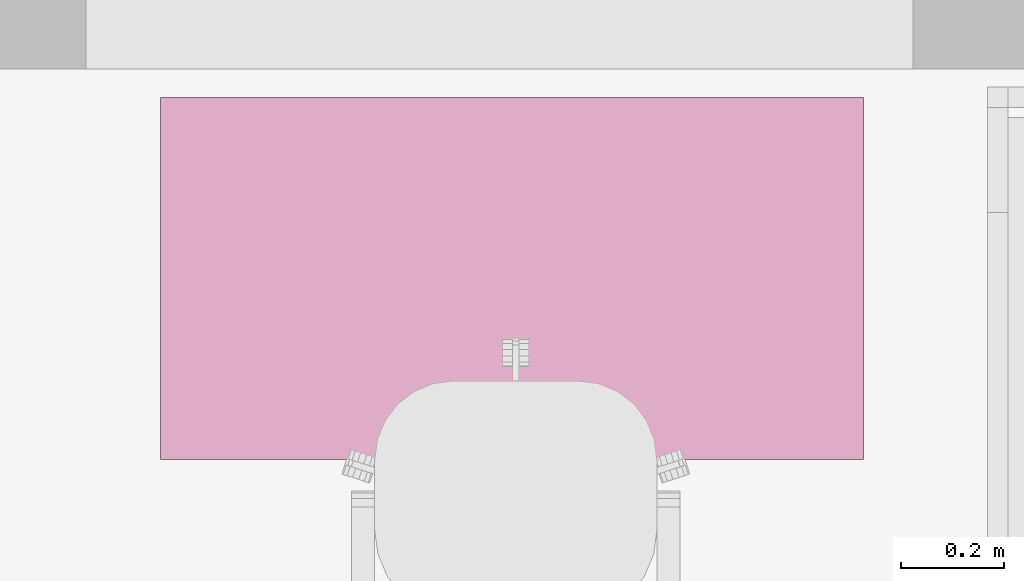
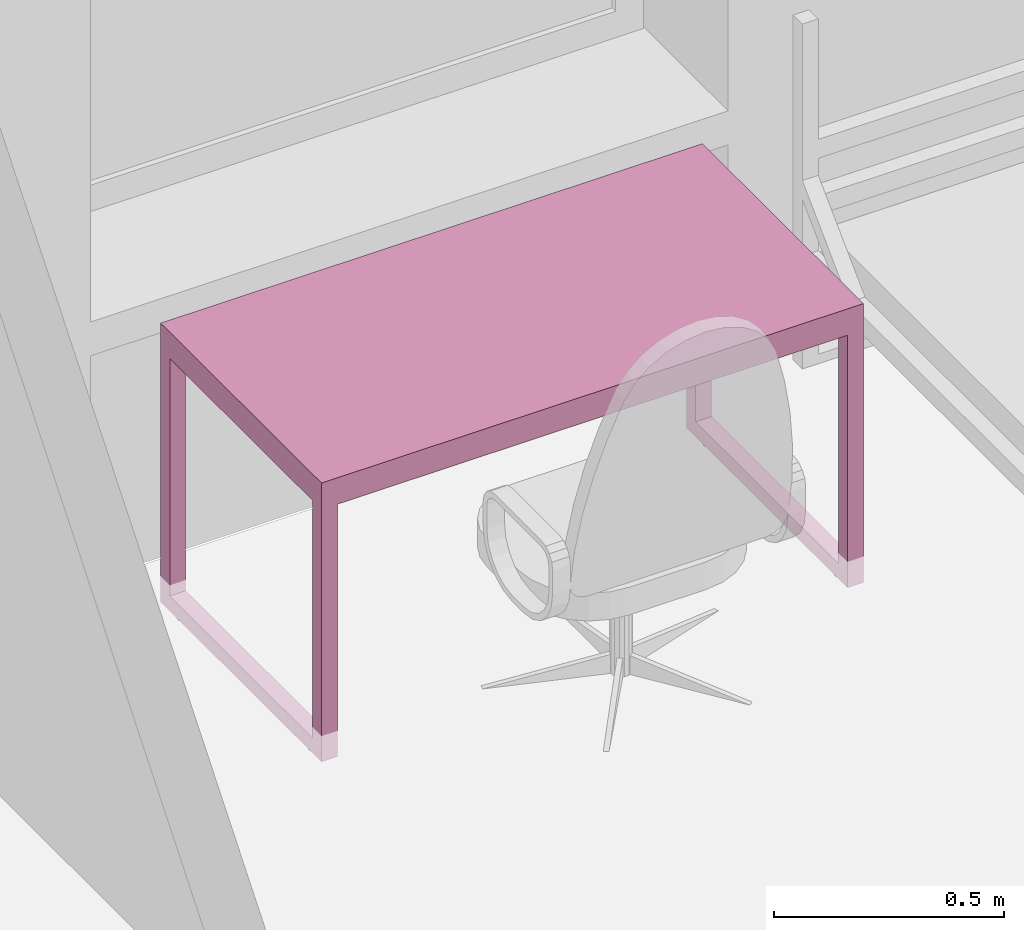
# One storey, part 32 of 46: 1 furnishing.
"""IFC2X3 building model written with IfcOpenShell, lengths in millimetres."""

import ifcopenshell
import ifcopenshell.guid

model = None  # the IFC model being written
_history = None  # IfcOwnerHistory: only IFC2X3 demands one
_inside = {}  # id of a spatial element -> (the spatial element, [elements in it])
_under = {}  # id of a project, library or spatial element -> (it, [spatial elements below it])
_declared = {}  # id of a project -> (the project, [libraries it declares])
_typed = {}  # id of a type object -> (the type object, [elements of that type])
_made_of = {}  # id of a material, layer set ... -> (it, [elements and type objects made of it])


def new_model(schema):
    """Start an empty IFC model of exactly this schema.

    Asked for "IFC4X3", IfcOpenShell would pick the latest addendum, in which some entities
    have other attributes; the version numbers below select the first issue.
    IFC2X3 requires an IfcOwnerHistory on every rooted entity: one is made here for all.
    """
    global model, _history
    if schema == "IFC4X3":
        model = ifcopenshell.file(schema_version=(4, 3, 0, 0))
    else:
        model = ifcopenshell.file(schema=schema)
    _inside.clear()
    _under.clear()
    _declared.clear()
    _typed.clear()
    _made_of.clear()
    _history = None
    if model.schema == "IFC2X3":
        org = make("IfcOrganization", Name="unknown")
        user = make(
            "IfcPersonAndOrganization",
            ThePerson=make("IfcPerson", FamilyName="unknown"),
            TheOrganization=org,
        )
        app = make(
            "IfcApplication",
            ApplicationDeveloper=org,
            Version="unknown",
            ApplicationFullName="unknown",
            ApplicationIdentifier="unknown",
        )
        _history = make(
            "IfcOwnerHistory",
            OwningUser=user,
            OwningApplication=app,
            ChangeAction="ADDED",
            CreationDate=0,
        )
    return model


def make(cls, **values):
    """One entity of the class cls with the attributes given. An attribute that is None is left unset."""
    return model.create_entity(
        cls, **{name: value for name, value in values.items() if value is not None}
    )


def entity(cls, *values):
    """Any entity or typed value of the class cls, its attributes in the order of the schema. None: left unset."""
    e = model.create_entity(cls)
    for i, value in enumerate(values):
        if value is not None:
            e[i] = value
    return e


def rooted(cls, **values):
    """An entity with a GlobalId (a new one), such as an element, a storey or a relation."""
    return make(cls, GlobalId=ifcopenshell.guid.new(), OwnerHistory=_history, **values)


def si_unit(unit_type, name, prefix=None):
    """IfcSIUnit, for example si_unit("LENGTHUNIT", "METRE", prefix="MILLI")."""
    return make("IfcSIUnit", UnitType=unit_type, Prefix=prefix, Name=name)


def converted_unit(unit_type, name, factor, base, dimensions=None, offset=None):
    """IfcConversionBasedUnit, such as the inch: factor (a typed value) times the base unit."""
    return make(
        "IfcConversionBasedUnit"
        if offset is None
        else "IfcConversionBasedUnitWithOffset",
        ConversionOffset=offset,
        Dimensions=None
        if dimensions is None
        else entity("IfcDimensionalExponents", *dimensions),
        UnitType=unit_type,
        Name=name,
        ConversionFactor=make(
            "IfcMeasureWithUnit", ValueComponent=factor, UnitComponent=base
        ),
    )


def derived_unit(unit_type, elements):
    """IfcDerivedUnit: a product of units, each with its exponent."""
    return make(
        "IfcDerivedUnit",
        Elements=[
            make("IfcDerivedUnitElement", Unit=unit, Exponent=power)
            for unit, power in elements
        ],
        UnitType=unit_type,
    )


def assignment(units):
    """IfcUnitAssignment: the units of a project."""
    return None if units is None else make("IfcUnitAssignment", Units=units)


def point(xyz):
    """IfcCartesianPoint."""
    return None if xyz is None else make("IfcCartesianPoint", Coordinates=xyz)


def direction(xyz):
    """IfcDirection."""
    return None if xyz is None else make("IfcDirection", DirectionRatios=xyz)


def frame(location, z_axis=None, x_axis=None):
    """IfcAxis2Placement3D, a coordinate frame: its origin and axes. An axis left out is left unset."""
    return make(
        "IfcAxis2Placement3D",
        Location=point(location),
        Axis=direction(z_axis),
        RefDirection=direction(x_axis),
    )


def origin():
    """The frame at (0, 0, 0) with its axes left unset."""
    return frame((0.0, 0.0, 0.0))


def place(relative_to, where):
    """IfcLocalPlacement: puts the frame where relative to a parent placement (None: the world)."""
    return make(
        "IfcLocalPlacement", PlacementRelTo=relative_to, RelativePlacement=where
    )


def context(
    kind, dimensions, precision=None, world=None, true_north=None, identifier=None
):
    """IfcGeometricRepresentationContext, for example the 3D "Model" context."""
    return make(
        "IfcGeometricRepresentationContext",
        ContextIdentifier=identifier,
        ContextType=kind,
        CoordinateSpaceDimension=dimensions,
        Precision=precision,
        WorldCoordinateSystem=world,
        TrueNorth=true_north,
    )


def subcontext(parent, identifier, kind, view, scale=None):
    """IfcGeometricRepresentationSubContext, for example "Body" below "Model"."""
    return make(
        "IfcGeometricRepresentationSubContext",
        ContextIdentifier=identifier,
        ContextType=kind,
        ParentContext=parent,
        TargetScale=scale,
        TargetView=view,
    )


def project(units=None, contexts=None):
    """IfcProject with its units and contexts."""
    return rooted(
        "IfcProject",
        Name="project",
        RepresentationContexts=contexts,
        UnitsInContext=assignment(units),
    )


def spatial(cls, under=None, at=None, **own):
    """A site, building, storey or space (cls), placed at a placement, below another one or the project."""
    s = rooted(cls, ObjectPlacement=at, **own)
    if under is not None:
        _under.setdefault(under.id(), (under, []))[1].append(s)
    return s


def faces_of(points, faces, orient=None, outer=None):
    """IfcFace entities. A face is a list of loops; a loop is a list of indices into points, from 0.

    orient and outer hold one flag for each loop. By default every Orientation is true, the
    first loop of a face is its IfcFaceOuterBound and the others are IfcFaceBound.
    """
    made = []
    for i, loops in enumerate(faces):
        bounds = []
        for j, loop in enumerate(loops):
            is_outer = j == 0 if outer is None else outer[i][j]
            bounds.append(
                make(
                    "IfcFaceOuterBound" if is_outer else "IfcFaceBound",
                    Bound=make("IfcPolyLoop", Polygon=[points[k] for k in loop]),
                    Orientation=True if orient is None else orient[i][j],
                )
            )
        made.append(make("IfcFace", Bounds=bounds))
    return made


def faceted_brep(points, faces, orient=None, outer=None, voids=None):
    """IfcFacetedBrep: a solid bounded by flat faces; with voids (closed shells), ...WithVoids."""
    shared = [point(p) for p in points]
    hull = make("IfcClosedShell", CfsFaces=faces_of(shared, faces, orient, outer))
    if voids is None:
        return make("IfcFacetedBrep", Outer=hull)
    return make(
        "IfcFacetedBrepWithVoids",
        Outer=hull,
        Voids=[
            make(cls, CfsFaces=faces_of(shared, fs, o, b)) for cls, fs, o, b in voids
        ],
    )


def shape(context_of_items, identifier, shape_type, items):
    """IfcShapeRepresentation: the items that make up one representation, for example the "Body"."""
    return make(
        "IfcShapeRepresentation",
        ContextOfItems=context_of_items,
        RepresentationIdentifier=identifier,
        RepresentationType=shape_type,
        Items=items,
    )


def source(mapping_origin, context_of_items, identifier, shape_type, items):
    """IfcRepresentationMap: a shape defined once, which mapped items show again and again."""
    return make(
        "IfcRepresentationMap",
        MappingOrigin=mapping_origin,
        MappedRepresentation=shape(context_of_items, identifier, shape_type, items),
    )


def transform(
    local_origin,
    x_axis=None,
    y_axis=None,
    z_axis=None,
    scale=None,
    scale2=None,
    scale3=None,
    uniform=True,
):
    """IfcCartesianTransformationOperator3D, or its non-uniform kind. x_axis, y_axis, z_axis: its Axis1, 2, 3."""
    if uniform:
        return make(
            "IfcCartesianTransformationOperator3D",
            Axis1=direction(x_axis),
            Axis2=direction(y_axis),
            LocalOrigin=point(local_origin),
            Scale=scale,
            Axis3=direction(z_axis),
        )
    return make(
        "IfcCartesianTransformationOperator3DnonUniform",
        Axis1=direction(x_axis),
        Axis2=direction(y_axis),
        LocalOrigin=point(local_origin),
        Scale=scale,
        Axis3=direction(z_axis),
        Scale2=scale2,
        Scale3=scale3,
    )


def mapped(mapping_source, mapping_target):
    """IfcMappedItem: shows the shape of a source again, moved by a transform."""
    return make(
        "IfcMappedItem", MappingSource=mapping_source, MappingTarget=mapping_target
    )


def material(Name=None, Category=None):
    """IfcMaterial."""
    return make("IfcMaterial", Name=Name, Category=Category)


def material_list(materials):
    """IfcMaterialList."""
    return make("IfcMaterialList", Materials=materials)


def made_of(thing, what):
    """Note that an element or type object is made of a material, layer set ...; save() writes the relation."""
    if what is not None:
        _made_of.setdefault(what.id(), (what, []))[1].append(thing)
    return thing


def type_object(cls, material=None, **own):
    """A type object (cls), such as IfcWallType, which elements share."""
    return made_of(rooted(cls, **own), material)


def type_shapes(of_type, sources):
    """Give a type object the sources (RepresentationMaps) that its elements show as mapped items."""
    of_type.RepresentationMaps = sources


def element(
    cls,
    number,
    at=None,
    inside=None,
    cuts=None,
    type_object=None,
    material=None,
    context=None,
    identifier="Body",
    shape_type=None,
    held_by="IfcProductDefinitionShape",
    body=None,
    shapes=None,
    **own,
):
    """One element of the class cls, such as IfcWall. Its Tag is "e" and its number.

    at: its placement. inside: the storey or other place that contains it. cuts: it is an
    opening in that element (IfcRelVoidsElement). A single representation is given by context,
    identifier, shape_type and body (its items); several are given by shapes. held_by: the class
    of the entity that holds the representations. save() writes the other relations.
    """
    e = rooted(cls, Tag="e%d" % number, ObjectPlacement=at, **own)
    if body is not None:
        shapes = [shape(context, identifier, shape_type, body)]
    if shapes is not None:
        e.Representation = make(held_by, Representations=shapes)
    if inside is not None:
        _inside.setdefault(inside.id(), (inside, []))[1].append(e)
    if cuts is not None:
        rooted(
            "IfcRelVoidsElement", RelatingBuildingElement=cuts, RelatedOpeningElement=e
        )
    if type_object is not None:
        _typed.setdefault(type_object.id(), (type_object, []))[1].append(e)
    return made_of(e, material)


def aggregate(whole, parts):
    """IfcRelAggregates: a whole, such as a stair, and the parts it consists of."""
    return rooted("IfcRelAggregates", RelatingObject=whole, RelatedObjects=parts)


def save(model, path):
    """Write the relations noted so far, then the file.

    IfcRelAggregates (storeys below a building ...), IfcRelContainedInSpatialStructure (elements
    in a storey), IfcRelDefinesByType, IfcRelAssociatesMaterial and IfcRelDeclares: one each for
    every whole, place, type object, material and project.
    """
    for whole, parts in _under.values():
        aggregate(whole, parts)
    for where, things in _inside.values():
        rooted(
            "IfcRelContainedInSpatialStructure",
            RelatedElements=things,
            RelatingStructure=where,
        )
    for kind, things in _typed.values():
        rooted("IfcRelDefinesByType", RelatedObjects=things, RelatingType=kind)
    for what, things in _made_of.values():
        rooted("IfcRelAssociatesMaterial", RelatedObjects=things, RelatingMaterial=what)
    for by, libraries in _declared.values():
        rooted("IfcRelDeclares", RelatingContext=by, RelatedDefinitions=libraries)
    model.write(path)


model = new_model("IFC2X3")

# Units and contexts
model_context = context("Model", 3, precision=0.01, world=origin(), true_north=direction((6.12303176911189e-17, 1.0)))
body_context = subcontext(model_context, "Body", "Model", "MODEL_VIEW")
ifc_project = project(units=[si_unit("LENGTHUNIT", "METRE", prefix="MILLI"), si_unit("AREAUNIT", "SQUARE_METRE"), si_unit("VOLUMEUNIT", "CUBIC_METRE"), converted_unit("PLANEANGLEUNIT", "DEGREE", entity("IfcRatioMeasure", 0.0174532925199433), si_unit("PLANEANGLEUNIT", "RADIAN"), dimensions=[0, 0, 0, 0, 0, 0, 0]), si_unit("MASSUNIT", "GRAM", prefix="KILO"), derived_unit("MASSDENSITYUNIT", [(si_unit("MASSUNIT", "GRAM", prefix="KILO"), 1), (si_unit("LENGTHUNIT", "METRE"), -3)]), si_unit("TIMEUNIT", "SECOND"), si_unit("FREQUENCYUNIT", "HERTZ"), si_unit("THERMODYNAMICTEMPERATUREUNIT", "DEGREE_CELSIUS"), derived_unit("THERMALTRANSMITTANCEUNIT", [(si_unit("MASSUNIT", "GRAM", prefix="KILO"), 1), (si_unit("THERMODYNAMICTEMPERATUREUNIT", "KELVIN"), -1), (si_unit("TIMEUNIT", "SECOND"), -3)]), derived_unit("VOLUMETRICFLOWRATEUNIT", [(si_unit("LENGTHUNIT", "METRE"), 3), (si_unit("TIMEUNIT", "SECOND"), -1)]), si_unit("ELECTRICCURRENTUNIT", "AMPERE"), si_unit("ELECTRICVOLTAGEUNIT", "VOLT"), si_unit("POWERUNIT", "WATT"), si_unit("FORCEUNIT", "NEWTON", prefix="KILO"), si_unit("ILLUMINANCEUNIT", "LUX"), si_unit("LUMINOUSFLUXUNIT", "LUMEN"), si_unit("LUMINOUSINTENSITYUNIT", "CANDELA"), derived_unit("USERDEFINED", [(si_unit("MASSUNIT", "GRAM", prefix="KILO"), -1), (si_unit("LENGTHUNIT", "METRE"), -2), (si_unit("TIMEUNIT", "SECOND"), 3), (si_unit("LUMINOUSFLUXUNIT", "LUMEN"), 1)]), derived_unit("LINEARVELOCITYUNIT", [(si_unit("LENGTHUNIT", "METRE"), 1), (si_unit("TIMEUNIT", "SECOND"), -1)]), si_unit("PRESSUREUNIT", "PASCAL"), derived_unit("USERDEFINED", [(si_unit("LENGTHUNIT", "METRE"), -2), (si_unit("MASSUNIT", "GRAM", prefix="KILO"), 1), (si_unit("TIMEUNIT", "SECOND"), -2)]), derived_unit("LINEARFORCEUNIT", [(si_unit("MASSUNIT", "GRAM", prefix="KILO"), 1), (si_unit("LENGTHUNIT", "METRE"), 1), (si_unit("TIMEUNIT", "SECOND"), -2), (si_unit("LENGTHUNIT", "METRE"), -1)]), derived_unit("PLANARFORCEUNIT", [(si_unit("MASSUNIT", "GRAM", prefix="KILO"), 1), (si_unit("LENGTHUNIT", "METRE"), 1), (si_unit("TIMEUNIT", "SECOND"), -2), (si_unit("LENGTHUNIT", "METRE"), -2)])], contexts=[model_context])

# Site, building, storey, space
site_placement = place(None, origin())
site = spatial("IfcSite", under=ifc_project, at=site_placement, Name="Default", CompositionType="ELEMENT")
building_placement = place(site_placement, origin())
building = spatial("IfcBuilding", under=site, at=building_placement, Name="SMA ARH", CompositionType="ELEMENT")
storey_placement = place(building_placement, origin())
storey = spatial("IfcBuildingStorey", under=building, at=storey_placement, Name="1 Korrus", CompositionType="ELEMENT", Elevation=0.0)
space_placement = place(storey_placement, origin())
space = spatial("IfcSpace", under=storey, at=space_placement, Name="1-20/2", CompositionType="ELEMENT", InteriorOrExteriorSpace="INTERNAL")

# Furnishing
ifc_material = material(Name="<Unnamed>")
ifc_material_list = material_list([ifc_material, ifc_material])
furniture_type = type_object("IfcFurnitureType", Name="kirjutuslaud 1360x700mm:kirjutuslaud 1360x700mm", material=ifc_material_list)
shared_shape = source(origin(), body_context, "Body", "Brep", [
    faceted_brep([(680.0, -350.0, 720.0), (680.0, 350.0, 720.0), (680.0, 350.0, 750.0), (680.0, -350.0, 750.0), (-680.0, -350.0, 720.0), (-680.0, -350.0, 750.0), (-680.0, 350.0, 750.0), (-680.0, 350.0, 720.0)], [[[0, 1, 2, 3]], [[4, 5, 6, 7]], [[1, 0, 4, 7]], [[2, 1, 7, 6]], [[3, 2, 6, 5]], [[0, 3, 5, 4]]]),
    faceted_brep([(-640.0, -310.0, 680.0), (-640.0, 310.0, 680.0), (-640.0, 310.0, 720.0), (-640.0, -310.0, 720.0), (-680.0, -350.0, 720.0), (-680.0, 350.0, 720.0), (-680.0, 350.0, 10.0), (-680.0, -350.0, 10.0), (-680.0, 310.0, 680.0), (-680.0, -310.0, 680.0), (-680.0, -310.0, 50.0), (-680.0, 310.0, 50.0), (-640.0, -350.0, 10.0), (-640.0, -350.0, 680.0), (640.0, -350.0, 680.0), (640.0, -350.0, 10.0), (680.0, -350.0, 10.0), (680.0, -350.0, 720.0), (-640.0, 350.0, 10.0), (680.0, 350.0, 720.0), (680.0, 350.0, 10.0), (640.0, 350.0, 10.0), (640.0, 350.0, 680.0), (-640.0, 350.0, 680.0), (640.0, 310.0, 720.0), (640.0, -310.0, 720.0), (-640.0, 310.0, 50.0), (-640.0, -310.0, 50.0), (640.0, -310.0, 680.0), (640.0, 310.0, 680.0), (680.0, 310.0, 680.0), (680.0, 310.0, 50.0), (680.0, -310.0, 50.0), (680.0, -310.0, 680.0), (640.0, -310.0, 50.0), (640.0, 310.0, 50.0)], [[[0, 1, 2, 3]], [[4, 5, 6, 7], [8, 9, 10, 11]], [[4, 7, 12, 13, 14, 15, 16, 17]], [[18, 12, 7, 6]], [[6, 5, 19, 20, 21, 22, 23, 18]], [[19, 5, 4, 17], [2, 24, 25, 3]], [[26, 1, 8, 11]], [[27, 26, 11, 10]], [[0, 27, 10, 9]], [[1, 0, 9, 8]], [[14, 13, 0, 28]], [[24, 2, 1, 29]], [[3, 25, 28, 0]], [[17, 16, 20, 19], [30, 31, 32, 33]], [[21, 15, 14, 28, 34, 35, 29, 22]], [[20, 16, 15, 21]], [[31, 30, 29, 35]], [[32, 31, 35, 34]], [[33, 32, 34, 28]], [[30, 33, 28, 29]], [[29, 28, 25, 24]], [[29, 1, 23, 22]], [[12, 18, 23, 1, 26, 27, 0, 13]]]),
    faceted_brep([(-663.729456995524, -270.466136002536, 0.0), (-659.847171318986, -269.955023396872, 0.0), (-655.964885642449, -270.466136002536, 0.0), (-652.347171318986, -271.964642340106, 0.0), (-649.240569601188, -274.348421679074, 0.0), (-646.85679026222, -277.455023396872, 0.0), (-645.35828392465, -281.072737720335, 0.0), (-644.847171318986, -284.955023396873, 0.0), (-645.35828392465, -288.83730907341, 0.0), (-646.85679026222, -292.455023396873, 0.0), (-649.240569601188, -295.561625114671, 0.0), (-652.347171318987, -297.945404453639, 0.0), (-655.964885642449, -299.443910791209, 0.0), (-659.847171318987, -299.955023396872, 0.0), (-663.729456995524, -299.443910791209, 0.0), (-667.347171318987, -297.945404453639, 0.0), (-670.453773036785, -295.561625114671, 0.0), (-672.837552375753, -292.455023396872, 0.0), (-674.336058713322, -288.83730907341, 0.0), (-674.847171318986, -284.955023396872, 0.0), (-674.336058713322, -281.072737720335, 0.0), (-672.837552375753, -277.455023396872, 0.0), (-670.453773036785, -274.348421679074, 0.0), (-667.347171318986, -271.964642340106, 0.0), (-655.964885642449, -299.443910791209, 10.0), (-652.347171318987, -297.945404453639, 10.0), (-649.240569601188, -295.561625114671, 10.0), (-646.85679026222, -292.455023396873, 10.0), (-645.35828392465, -288.83730907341, 10.0), (-644.847171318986, -284.955023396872, 10.0), (-645.35828392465, -281.072737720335, 10.0), (-646.85679026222, -277.455023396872, 10.0), (-649.240569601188, -274.348421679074, 10.0), (-652.347171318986, -271.964642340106, 10.0), (-655.964885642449, -270.466136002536, 10.0), (-659.847171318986, -269.955023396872, 10.0), (-663.729456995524, -270.466136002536, 10.0), (-667.347171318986, -271.964642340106, 10.0), (-670.453773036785, -274.348421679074, 10.0), (-672.837552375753, -277.455023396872, 10.0), (-674.336058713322, -281.072737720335, 10.0), (-674.847171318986, -284.955023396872, 10.0), (-674.336058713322, -288.83730907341, 10.0), (-672.837552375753, -292.455023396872, 10.0), (-670.453773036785, -295.561625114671, 10.0), (-667.347171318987, -297.945404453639, 10.0), (-663.729456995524, -299.443910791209, 10.0), (-659.847171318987, -299.955023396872, 10.0)], [[[0, 1, 2, 3, 4, 5, 6, 7, 8, 9, 10, 11, 12, 13, 14, 15, 16, 17, 18, 19, 20, 21, 22, 23]], [[24, 25, 26, 27, 28, 29, 30, 31, 32, 33, 34, 35, 36, 37, 38, 39, 40, 41, 42, 43, 44, 45, 46, 47]], [[18, 42, 41, 19]], [[17, 43, 42, 18]], [[45, 44, 16, 15]], [[17, 16, 44, 43]], [[46, 45, 15, 14]], [[47, 46, 14, 13]], [[12, 24, 47, 13]], [[11, 25, 24, 12]], [[27, 26, 10, 9]], [[11, 10, 26, 25]], [[28, 27, 9, 8]], [[29, 28, 8, 7]], [[6, 30, 29, 7]], [[5, 31, 30, 6]], [[33, 32, 4, 3]], [[5, 4, 32, 31]], [[34, 33, 3, 2]], [[35, 34, 2, 1]], [[0, 36, 35, 1]], [[23, 37, 36, 0]], [[39, 38, 22, 21]], [[23, 22, 38, 37]], [[40, 39, 21, 20]], [[41, 40, 20, 19]]]),
    faceted_brep([(-655.964885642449, 270.466136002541, 10.0), (-652.347171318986, 271.964642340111, 10.0), (-649.240569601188, 274.348421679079, 10.0), (-646.85679026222, 277.455023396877, 10.0), (-645.35828392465, 281.07273772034, 10.0), (-644.847171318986, 284.955023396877, 10.0), (-645.35828392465, 288.837309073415, 10.0), (-646.85679026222, 292.455023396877, 10.0), (-649.240569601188, 295.561625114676, 10.0), (-652.347171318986, 297.945404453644, 10.0), (-655.964885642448, 299.443910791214, 10.0), (-659.847171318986, 299.955023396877, 10.0), (-663.729456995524, 299.443910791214, 10.0), (-667.347171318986, 297.945404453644, 10.0), (-670.453773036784, 295.561625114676, 10.0), (-672.837552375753, 292.455023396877, 10.0), (-674.336058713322, 288.837309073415, 10.0), (-674.847171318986, 284.955023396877, 10.0), (-674.336058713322, 281.07273772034, 10.0), (-672.837552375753, 277.455023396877, 10.0), (-670.453773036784, 274.348421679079, 10.0), (-667.347171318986, 271.964642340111, 10.0), (-663.729456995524, 270.466136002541, 10.0), (-659.847171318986, 269.955023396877, 10.0), (-655.964885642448, 299.443910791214, 0.0), (-652.347171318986, 297.945404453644, 0.0), (-649.240569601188, 295.561625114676, 0.0), (-646.85679026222, 292.455023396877, 0.0), (-645.35828392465, 288.837309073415, 0.0), (-644.847171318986, 284.955023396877, 0.0), (-645.35828392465, 281.07273772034, 0.0), (-646.85679026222, 277.455023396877, 0.0), (-649.240569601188, 274.348421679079, 0.0), (-652.347171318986, 271.964642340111, 0.0), (-655.964885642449, 270.466136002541, 0.0), (-659.847171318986, 269.955023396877, 0.0), (-663.729456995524, 270.466136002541, 0.0), (-667.347171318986, 271.964642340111, 0.0), (-670.453773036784, 274.348421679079, 0.0), (-672.837552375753, 277.455023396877, 0.0), (-674.336058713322, 281.07273772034, 0.0), (-674.847171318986, 284.955023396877, 0.0), (-674.336058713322, 288.837309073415, 0.0), (-672.837552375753, 292.455023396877, 0.0), (-670.453773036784, 295.561625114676, 0.0), (-667.347171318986, 297.945404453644, 0.0), (-663.729456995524, 299.443910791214, 0.0), (-659.847171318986, 299.955023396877, 0.0)], [[[0, 1, 2, 3, 4, 5, 6, 7, 8, 9, 10, 11, 12, 13, 14, 15, 16, 17, 18, 19, 20, 21, 22, 23]], [[24, 25, 26, 27, 28, 29, 30, 31, 32, 33, 34, 35, 36, 37, 38, 39, 40, 41, 42, 43, 44, 45, 46, 47]], [[40, 18, 17, 41]], [[39, 19, 18, 40]], [[21, 20, 38, 37]], [[39, 38, 20, 19]], [[22, 21, 37, 36]], [[23, 22, 36, 35]], [[34, 0, 23, 35]], [[33, 1, 0, 34]], [[3, 2, 32, 31]], [[33, 32, 2, 1]], [[4, 3, 31, 30]], [[5, 4, 30, 29]], [[28, 6, 5, 29]], [[27, 7, 6, 28]], [[9, 8, 26, 25]], [[27, 26, 8, 7]], [[10, 9, 25, 24]], [[11, 10, 24, 47]], [[46, 12, 11, 47]], [[45, 13, 12, 46]], [[15, 14, 44, 43]], [[45, 44, 14, 13]], [[16, 15, 43, 42]], [[17, 16, 42, 41]]]),
    faceted_brep([(656.270543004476, -270.466136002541, 0.0), (660.152828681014, -269.955023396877, 0.0), (664.035114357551, -270.466136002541, 0.0), (667.652828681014, -271.96464234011, 0.0), (670.759430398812, -274.348421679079, 0.0), (673.14320973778, -277.455023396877, 0.0), (674.64171607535, -281.072737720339, 0.0), (675.152828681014, -284.955023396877, 0.0), (674.64171607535, -288.837309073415, 0.0), (673.14320973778, -292.455023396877, 0.0), (670.759430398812, -295.561625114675, 0.0), (667.652828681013, -297.945404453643, 0.0), (664.035114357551, -299.443910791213, 0.0), (660.152828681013, -299.955023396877, 0.0), (656.270543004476, -299.443910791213, 0.0), (652.652828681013, -297.945404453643, 0.0), (649.546226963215, -295.561625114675, 0.0), (647.162447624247, -292.455023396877, 0.0), (645.663941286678, -288.837309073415, 0.0), (645.152828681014, -284.955023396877, 0.0), (645.663941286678, -281.072737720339, 0.0), (647.162447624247, -277.455023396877, 0.0), (649.546226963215, -274.348421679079, 0.0), (652.652828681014, -271.96464234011, 0.0), (664.035114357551, -299.443910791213, 10.0), (667.652828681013, -297.945404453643, 10.0), (670.759430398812, -295.561625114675, 10.0), (673.14320973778, -292.455023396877, 10.0), (674.64171607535, -288.837309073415, 10.0), (675.152828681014, -284.955023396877, 10.0), (674.64171607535, -281.072737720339, 10.0), (673.14320973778, -277.455023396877, 10.0), (670.759430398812, -274.348421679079, 10.0), (667.652828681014, -271.96464234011, 10.0), (664.035114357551, -270.466136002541, 10.0), (660.152828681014, -269.955023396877, 10.0), (656.270543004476, -270.466136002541, 10.0), (652.652828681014, -271.96464234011, 10.0), (649.546226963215, -274.348421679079, 10.0), (647.162447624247, -277.455023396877, 10.0), (645.663941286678, -281.072737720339, 10.0), (645.152828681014, -284.955023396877, 10.0), (645.663941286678, -288.837309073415, 10.0), (647.162447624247, -292.455023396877, 10.0), (649.546226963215, -295.561625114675, 10.0), (652.652828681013, -297.945404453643, 10.0), (656.270543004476, -299.443910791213, 10.0), (660.152828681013, -299.955023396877, 10.0)], [[[0, 1, 2, 3, 4, 5, 6, 7, 8, 9, 10, 11, 12, 13, 14, 15, 16, 17, 18, 19, 20, 21, 22, 23]], [[24, 25, 26, 27, 28, 29, 30, 31, 32, 33, 34, 35, 36, 37, 38, 39, 40, 41, 42, 43, 44, 45, 46, 47]], [[18, 42, 41, 19]], [[17, 43, 42, 18]], [[45, 44, 16, 15]], [[17, 16, 44, 43]], [[46, 45, 15, 14]], [[47, 46, 14, 13]], [[12, 24, 47, 13]], [[11, 25, 24, 12]], [[27, 26, 10, 9]], [[11, 10, 26, 25]], [[28, 27, 9, 8]], [[29, 28, 8, 7]], [[6, 30, 29, 7]], [[5, 31, 30, 6]], [[33, 32, 4, 3]], [[5, 4, 32, 31]], [[34, 33, 3, 2]], [[35, 34, 2, 1]], [[0, 36, 35, 1]], [[23, 37, 36, 0]], [[39, 38, 22, 21]], [[23, 22, 38, 37]], [[40, 39, 21, 20]], [[41, 40, 20, 19]]]),
    faceted_brep([(664.035114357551, 270.466136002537, 10.0), (667.652828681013, 271.964642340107, 10.0), (670.759430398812, 274.348421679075, 10.0), (673.14320973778, 277.455023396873, 10.0), (674.64171607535, 281.072737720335, 10.0), (675.152828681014, 284.955023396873, 10.0), (674.64171607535, 288.837309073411, 10.0), (673.14320973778, 292.455023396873, 10.0), (670.759430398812, 295.561625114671, 10.0), (667.652828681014, 297.94540445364, 10.0), (664.035114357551, 299.443910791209, 10.0), (660.152828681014, 299.955023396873, 10.0), (656.270543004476, 299.443910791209, 10.0), (652.652828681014, 297.94540445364, 10.0), (649.546226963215, 295.561625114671, 10.0), (647.162447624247, 292.455023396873, 10.0), (645.663941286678, 288.837309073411, 10.0), (645.152828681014, 284.955023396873, 10.0), (645.663941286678, 281.072737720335, 10.0), (647.162447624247, 277.455023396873, 10.0), (649.546226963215, 274.348421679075, 10.0), (652.652828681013, 271.964642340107, 10.0), (656.270543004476, 270.466136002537, 10.0), (660.152828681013, 269.955023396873, 10.0), (664.035114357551, 299.443910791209, 0.0), (667.652828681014, 297.94540445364, 0.0), (670.759430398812, 295.561625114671, 0.0), (673.14320973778, 292.455023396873, 0.0), (674.64171607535, 288.837309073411, 0.0), (675.152828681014, 284.955023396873, 0.0), (674.64171607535, 281.072737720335, 0.0), (673.14320973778, 277.455023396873, 0.0), (670.759430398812, 274.348421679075, 0.0), (667.652828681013, 271.964642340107, 0.0), (664.035114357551, 270.466136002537, 0.0), (660.152828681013, 269.955023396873, 0.0), (656.270543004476, 270.466136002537, 0.0), (652.652828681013, 271.964642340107, 0.0), (649.546226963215, 274.348421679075, 0.0), (647.162447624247, 277.455023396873, 0.0), (645.663941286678, 281.072737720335, 0.0), (645.152828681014, 284.955023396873, 0.0), (645.663941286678, 288.837309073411, 0.0), (647.162447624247, 292.455023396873, 0.0), (649.546226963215, 295.561625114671, 0.0), (652.652828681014, 297.94540445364, 0.0), (656.270543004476, 299.443910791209, 0.0), (660.152828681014, 299.955023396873, 0.0)], [[[0, 1, 2, 3, 4, 5, 6, 7, 8, 9, 10, 11, 12, 13, 14, 15, 16, 17, 18, 19, 20, 21, 22, 23]], [[24, 25, 26, 27, 28, 29, 30, 31, 32, 33, 34, 35, 36, 37, 38, 39, 40, 41, 42, 43, 44, 45, 46, 47]], [[40, 18, 17, 41]], [[39, 19, 18, 40]], [[21, 20, 38, 37]], [[39, 38, 20, 19]], [[22, 21, 37, 36]], [[23, 22, 36, 35]], [[34, 0, 23, 35]], [[33, 1, 0, 34]], [[3, 2, 32, 31]], [[33, 32, 2, 1]], [[4, 3, 31, 30]], [[5, 4, 30, 29]], [[28, 6, 5, 29]], [[27, 7, 6, 28]], [[9, 8, 26, 25]], [[27, 26, 8, 7]], [[10, 9, 25, 24]], [[11, 10, 24, 47]], [[46, 12, 11, 47]], [[45, 13, 12, 46]], [[15, 14, 44, 43]], [[45, 44, 14, 13]], [[16, 15, 43, 42]], [[17, 16, 42, 41]]]),
])
type_shapes(furniture_type, [shared_shape])
furnishing_placement = place(space_placement, frame((6619.0, 12091.2030428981, 0.0)))
element("IfcFurnishingElement", 1, at=furnishing_placement, inside=space, type_object=furniture_type, Name="kirjutuslaud 1360x700mm:kirjutuslaud 1360x700mm", ObjectType="kirjutuslaud 1360x700mm:kirjutuslaud 1360x700mm", context=body_context, shape_type="MappedRepresentation", body=[
    mapped(shared_shape, transform((0.0, 0.0, 0.0), scale=1.0)),
])

save(model, "model.ifc")
